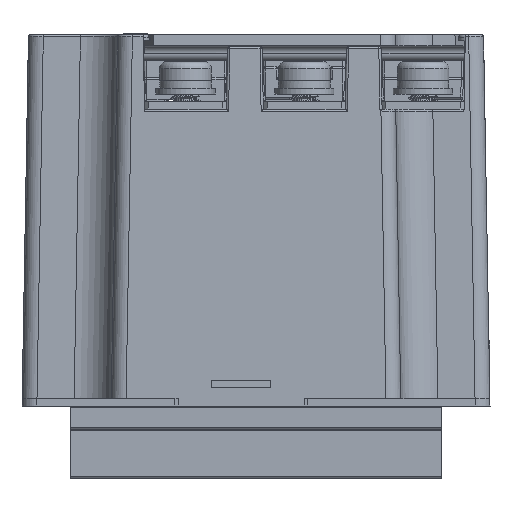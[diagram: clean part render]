
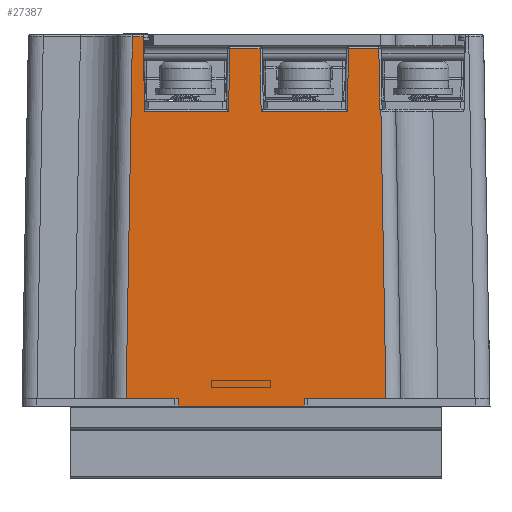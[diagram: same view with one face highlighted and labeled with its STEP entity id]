
A CAD part, left-side view. The second image highlights one B-rep face of the part: STEP entity #27387.
In plain terms, the highlighted planar face has unit normal (-1, 0, 0.018).
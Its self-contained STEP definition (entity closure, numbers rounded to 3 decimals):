
#1361=PLANE('',#29734);
#3251=FACE_OUTER_BOUND('',#4813,.T.);
#4813=EDGE_LOOP('',(#20841,#20842,#20843,#20844,#20845,#20846,#20847,#20848,
#20849,#20850,#20851,#20852,#20853,#20854,#20855,#20856,#20857,#20858,#20859));
#5935=B_SPLINE_CURVE_WITH_KNOTS('',3,(#42474,#42475,#42476,#42477,#42478,
#42479,#42480,#42481,#42482),.UNSPECIFIED.,.F.,.F.,(4,1,1,1,1,1,4),(0.013,
0.017,0.02,0.029,0.038,
0.04,0.043),.UNSPECIFIED.);
#6729=LINE('',#42485,#9505);
#6732=LINE('',#42506,#9508);
#6737=LINE('',#42515,#9513);
#6738=LINE('',#42519,#9514);
#6739=LINE('',#42523,#9515);
#6740=LINE('',#42526,#9516);
#6741=LINE('',#42530,#9517);
#6742=LINE('',#42533,#9518);
#6743=LINE('',#42535,#9519);
#6744=LINE('',#42538,#9520);
#6745=LINE('',#42542,#9521);
#6746=LINE('',#42545,#9522);
#6747=LINE('',#42547,#9523);
#6748=LINE('',#42549,#9524);
#6970=LINE('',#43229,#9746);
#7105=LINE('',#43556,#9881);
#7106=LINE('',#43559,#9882);
#7107=LINE('',#43560,#9883);
#9505=VECTOR('',#33483,10.);
#9508=VECTOR('',#33488,10.);
#9513=VECTOR('',#33495,10.);
#9514=VECTOR('',#33500,10.);
#9515=VECTOR('',#33505,10.);
#9516=VECTOR('',#33508,10.);
#9517=VECTOR('',#33513,10.);
#9518=VECTOR('',#33518,10.);
#9519=VECTOR('',#33521,10.);
#9520=VECTOR('',#33524,10.);
#9521=VECTOR('',#33529,10.);
#9522=VECTOR('',#33534,10.);
#9523=VECTOR('',#33537,10.);
#9524=VECTOR('',#33540,10.);
#9746=VECTOR('',#34066,10.);
#9881=VECTOR('',#34411,10.);
#9882=VECTOR('',#34414,10.);
#9883=VECTOR('',#34415,10.);
#11985=VERTEX_POINT('',#41352);
#11999=VERTEX_POINT('',#41424);
#12000=VERTEX_POINT('',#41428);
#12005=VERTEX_POINT('',#41446);
#12006=VERTEX_POINT('',#41452);
#12251=VERTEX_POINT('',#42429);
#12253=VERTEX_POINT('',#42472);
#12254=VERTEX_POINT('',#42484);
#12256=VERTEX_POINT('',#42503);
#12257=VERTEX_POINT('',#42505);
#12260=VERTEX_POINT('',#42512);
#12261=VERTEX_POINT('',#42517);
#12262=VERTEX_POINT('',#42521);
#12263=VERTEX_POINT('',#42525);
#12264=VERTEX_POINT('',#42529);
#12265=VERTEX_POINT('',#42537);
#12266=VERTEX_POINT('',#42541);
#12525=VERTEX_POINT('',#43554);
#12526=VERTEX_POINT('',#43558);
#15157=EDGE_CURVE('',#12253,#12251,#5935,.T.);
#15158=EDGE_CURVE('',#12251,#12254,#6729,.T.);
#15162=EDGE_CURVE('',#12256,#12257,#6732,.F.);
#15167=EDGE_CURVE('',#12260,#12257,#6737,.T.);
#15169=EDGE_CURVE('',#12261,#11985,#6738,.T.);
#15171=EDGE_CURVE('',#11985,#12262,#6739,.T.);
#15172=EDGE_CURVE('',#12263,#12262,#6740,.F.);
#15174=EDGE_CURVE('',#12263,#12264,#6741,.T.);
#15176=EDGE_CURVE('',#12264,#11999,#6742,.T.);
#15177=EDGE_CURVE('',#11999,#12000,#6743,.T.);
#15178=EDGE_CURVE('',#12000,#12265,#6744,.T.);
#15180=EDGE_CURVE('',#12265,#12266,#6745,.T.);
#15182=EDGE_CURVE('',#12266,#12005,#6746,.T.);
#15183=EDGE_CURVE('',#12005,#12006,#6747,.T.);
#15184=EDGE_CURVE('',#12006,#12253,#6748,.T.);
#15470=EDGE_CURVE('',#12261,#12260,#6970,.T.);
#15635=EDGE_CURVE('',#12525,#12256,#7105,.F.);
#15636=EDGE_CURVE('',#12525,#12526,#7106,.T.);
#15637=EDGE_CURVE('',#12254,#12526,#7107,.T.);
#20841=ORIENTED_EDGE('',*,*,#15184,.F.);
#20842=ORIENTED_EDGE('',*,*,#15183,.F.);
#20843=ORIENTED_EDGE('',*,*,#15182,.F.);
#20844=ORIENTED_EDGE('',*,*,#15180,.F.);
#20845=ORIENTED_EDGE('',*,*,#15178,.F.);
#20846=ORIENTED_EDGE('',*,*,#15177,.F.);
#20847=ORIENTED_EDGE('',*,*,#15176,.F.);
#20848=ORIENTED_EDGE('',*,*,#15174,.F.);
#20849=ORIENTED_EDGE('',*,*,#15172,.T.);
#20850=ORIENTED_EDGE('',*,*,#15171,.F.);
#20851=ORIENTED_EDGE('',*,*,#15169,.F.);
#20852=ORIENTED_EDGE('',*,*,#15470,.T.);
#20853=ORIENTED_EDGE('',*,*,#15167,.T.);
#20854=ORIENTED_EDGE('',*,*,#15162,.F.);
#20855=ORIENTED_EDGE('',*,*,#15635,.F.);
#20856=ORIENTED_EDGE('',*,*,#15636,.T.);
#20857=ORIENTED_EDGE('',*,*,#15637,.F.);
#20858=ORIENTED_EDGE('',*,*,#15158,.F.);
#20859=ORIENTED_EDGE('',*,*,#15157,.F.);
#27387=ADVANCED_FACE('',(#3251),#1361,.T.);
#29734=AXIS2_PLACEMENT_3D('',#43557,#34412,#34413);
#33483=DIRECTION('',(-0.017,-0.017,-1.));
#33488=DIRECTION('',(0.,-1.,0.));
#33495=DIRECTION('',(-0.017,0.,-1.));
#33500=DIRECTION('',(0.017,-0.017,1.));
#33505=DIRECTION('',(0.,-1.,0.));
#33508=DIRECTION('',(-0.017,-0.017,-1.));
#33513=DIRECTION('',(0.,-1.,0.));
#33518=DIRECTION('',(0.017,-0.017,1.));
#33521=DIRECTION('',(0.,-1.,0.));
#33524=DIRECTION('',(-0.017,-0.017,-1.));
#33529=DIRECTION('',(0.,-1.,0.));
#33534=DIRECTION('',(0.017,-0.017,1.));
#33537=DIRECTION('',(0.,-1.,0.));
#33540=DIRECTION('',(-0.017,-0.017,-1.));
#34066=DIRECTION('',(0.,-1.,0.));
#34411=DIRECTION('',(0.017,0.,1.));
#34412=DIRECTION('center_axis',(-1.,0.,0.017));
#34413=DIRECTION('ref_axis',(0.,-1.,0.));
#34414=DIRECTION('',(0.,-1.,0.));
#34415=DIRECTION('',(-0.017,-0.017,-1.));
#41352=CARTESIAN_POINT('',(-63.15,16.65,48.705));
#41424=CARTESIAN_POINT('',(-63.178,3.541,47.105));
#41428=CARTESIAN_POINT('',(-63.178,-0.541,47.105));
#41446=CARTESIAN_POINT('',(-63.178,-12.459,47.105));
#41452=CARTESIAN_POINT('',(-63.178,-16.541,47.105));
#42429=CARTESIAN_POINT('',(-63.324,-16.824,38.75));
#42472=CARTESIAN_POINT('',(-63.319,-16.683,39.));
#42474=CARTESIAN_POINT('Ctrl Pts',(-63.319,-16.683,
39.));
#42475=CARTESIAN_POINT('Ctrl Pts',(-63.32,-16.683,
38.985));
#42476=CARTESIAN_POINT('Ctrl Pts',(-63.32,-16.685,
38.962));
#42477=CARTESIAN_POINT('Ctrl Pts',(-63.321,-16.696,
38.91));
#42478=CARTESIAN_POINT('Ctrl Pts',(-63.322,-16.722,
38.847));
#42479=CARTESIAN_POINT('Ctrl Pts',(-63.323,-16.767,
38.794));
#42480=CARTESIAN_POINT('Ctrl Pts',(-63.323,-16.803,38.764));
#42481=CARTESIAN_POINT('Ctrl Pts',(-63.324,-16.816,
38.755));
#42482=CARTESIAN_POINT('Ctrl Pts',(-63.324,-16.824,
38.75));
#42484=CARTESIAN_POINT('',(-63.324,-16.825,38.705));
#42485=CARTESIAN_POINT('',(-63.565,-17.066,24.899));
#42503=CARTESIAN_POINT('',(-64.017,-6.5,-1.));
#42505=CARTESIAN_POINT('',(-64.017,10.5,-1.));
#42506=CARTESIAN_POINT('',(-64.017,-2.25,-1.));
#42512=CARTESIAN_POINT('',(-64.,10.5,0.));
#42515=CARTESIAN_POINT('',(-64.,10.5,0.));
#42517=CARTESIAN_POINT('',(-64.,17.5,0.));
#42519=CARTESIAN_POINT('',(-63.573,17.074,24.441));
#42521=CARTESIAN_POINT('',(-63.15,15.187,48.705));
#42523=CARTESIAN_POINT('',(-63.15,15.75,48.705));
#42525=CARTESIAN_POINT('',(-63.324,15.012,38.705));
#42526=CARTESIAN_POINT('',(-63.57,14.767,24.641));
#42529=CARTESIAN_POINT('',(-63.324,3.688,38.705));
#42530=CARTESIAN_POINT('',(-63.324,17.741,38.705));
#42533=CARTESIAN_POINT('',(-63.572,3.935,24.514));
#42535=CARTESIAN_POINT('',(-63.178,12.918,47.105));
#42537=CARTESIAN_POINT('',(-63.324,-0.688,38.705));
#42538=CARTESIAN_POINT('',(-63.568,-0.931,24.776));
#42541=CARTESIAN_POINT('',(-63.324,-12.312,38.705));
#42542=CARTESIAN_POINT('',(-63.324,9.741,38.705));
#42545=CARTESIAN_POINT('',(-63.575,-12.062,24.375));
#42547=CARTESIAN_POINT('',(-63.178,12.918,47.105));
#42549=CARTESIAN_POINT('',(-63.565,-16.928,24.915));
#43229=CARTESIAN_POINT('',(-64.,31.5,0.));
#43554=CARTESIAN_POINT('',(-64.,-6.5,0.));
#43556=CARTESIAN_POINT('',(-64.,-6.5,0.01));
#43557=CARTESIAN_POINT('Origin',(-64.,31.5,0.));
#43558=CARTESIAN_POINT('',(-64.,-17.5,0.));
#43559=CARTESIAN_POINT('',(-64.,31.5,0.));
#43560=CARTESIAN_POINT('',(-63.565,-17.066,24.899));
